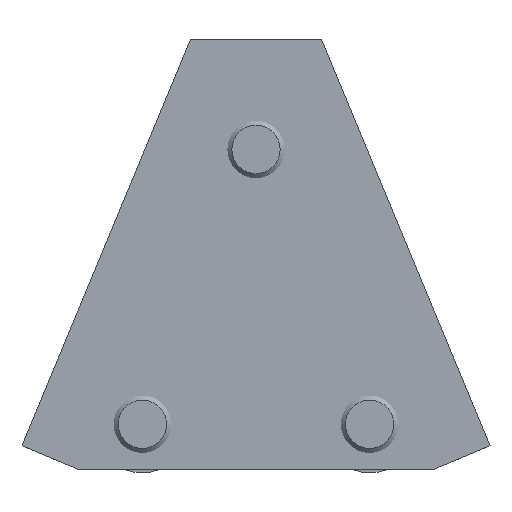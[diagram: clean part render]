
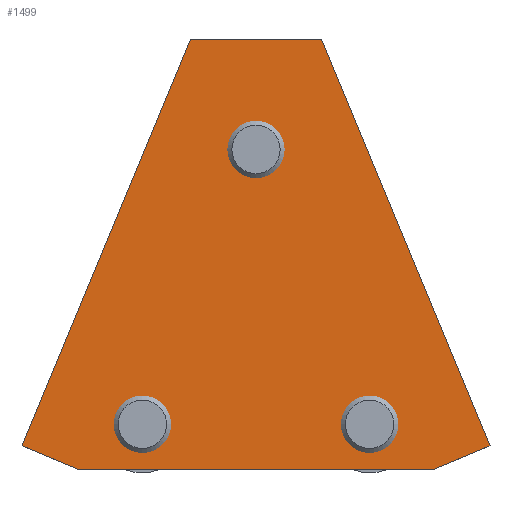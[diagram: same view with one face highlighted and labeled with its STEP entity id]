
A CAD part, left-side view. The second image highlights one B-rep face of the part: STEP entity #1499.
In plain terms, the highlighted planar face has unit normal (-1, 0, 0).
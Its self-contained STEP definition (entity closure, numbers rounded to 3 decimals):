
#65=FACE_BOUND('',#272,.T.);
#66=FACE_BOUND('',#273,.T.);
#67=FACE_BOUND('',#274,.T.);
#108=PLANE('',#1717);
#181=FACE_OUTER_BOUND('',#271,.T.);
#271=EDGE_LOOP('',(#1316,#1317,#1318,#1319,#1320,#1321));
#272=EDGE_LOOP('',(#1322));
#273=EDGE_LOOP('',(#1323));
#274=EDGE_LOOP('',(#1324));
#387=LINE('',#2515,#521);
#393=LINE('',#2526,#527);
#404=LINE('',#2548,#538);
#406=LINE('',#2552,#540);
#408=LINE('',#2557,#542);
#410=LINE('',#2560,#544);
#521=VECTOR('',#2071,10.);
#527=VECTOR('',#2079,10.);
#538=VECTOR('',#2100,10.);
#540=VECTOR('',#2104,10.);
#542=VECTOR('',#2110,10.);
#544=VECTOR('',#2114,10.);
#590=CIRCLE('',#1663,3.324);
#593=CIRCLE('',#1667,3.324);
#596=CIRCLE('',#1671,3.324);
#691=VERTEX_POINT('',#2392);
#694=VERTEX_POINT('',#2400);
#697=VERTEX_POINT('',#2408);
#732=VERTEX_POINT('',#2512);
#733=VERTEX_POINT('',#2514);
#737=VERTEX_POINT('',#2524);
#743=VERTEX_POINT('',#2546);
#744=VERTEX_POINT('',#2550);
#745=VERTEX_POINT('',#2556);
#864=EDGE_CURVE('',#691,#691,#590,.T.);
#868=EDGE_CURVE('',#694,#694,#593,.T.);
#872=EDGE_CURVE('',#697,#697,#596,.T.);
#923=EDGE_CURVE('',#732,#733,#387,.T.);
#929=EDGE_CURVE('',#732,#737,#393,.T.);
#940=EDGE_CURVE('',#743,#737,#404,.T.);
#942=EDGE_CURVE('',#743,#744,#406,.T.);
#944=EDGE_CURVE('',#745,#733,#408,.T.);
#946=EDGE_CURVE('',#745,#744,#410,.T.);
#1316=ORIENTED_EDGE('',*,*,#942,.T.);
#1317=ORIENTED_EDGE('',*,*,#946,.F.);
#1318=ORIENTED_EDGE('',*,*,#944,.T.);
#1319=ORIENTED_EDGE('',*,*,#923,.F.);
#1320=ORIENTED_EDGE('',*,*,#929,.T.);
#1321=ORIENTED_EDGE('',*,*,#940,.F.);
#1322=ORIENTED_EDGE('',*,*,#864,.T.);
#1323=ORIENTED_EDGE('',*,*,#868,.T.);
#1324=ORIENTED_EDGE('',*,*,#872,.T.);
#1499=ADVANCED_FACE('',(#181,#65,#66,#67),#108,.F.);
#1663=AXIS2_PLACEMENT_3D('',#2394,#1947,#1948);
#1667=AXIS2_PLACEMENT_3D('',#2402,#1956,#1957);
#1671=AXIS2_PLACEMENT_3D('',#2410,#1965,#1966);
#1717=AXIS2_PLACEMENT_3D('',#2559,#2112,#2113);
#1947=DIRECTION('center_axis',(1.,0.,0.));
#1948=DIRECTION('ref_axis',(0.,0.,-1.));
#1956=DIRECTION('center_axis',(1.,0.,0.));
#1957=DIRECTION('ref_axis',(0.,0.,-1.));
#1965=DIRECTION('center_axis',(1.,0.,0.));
#1966=DIRECTION('ref_axis',(0.,0.,-1.));
#2071=DIRECTION('',(0.,-0.383,-0.924));
#2079=DIRECTION('',(0.,1.,0.));
#2100=DIRECTION('',(0.,-0.383,0.924));
#2104=DIRECTION('',(0.,-0.924,-0.383));
#2110=DIRECTION('',(0.,-0.924,0.383));
#2112=DIRECTION('center_axis',(1.,0.,0.));
#2113=DIRECTION('ref_axis',(0.,0.,-1.));
#2114=DIRECTION('',(0.,1.,0.));
#2392=CARTESIAN_POINT('',(0.,15.2,9.324));
#2394=CARTESIAN_POINT('Origin',(0.,15.2,6.));
#2400=CARTESIAN_POINT('',(0.,0.,46.074));
#2402=CARTESIAN_POINT('Origin',(0.,0.,42.75));
#2408=CARTESIAN_POINT('',(0.,-15.2,9.324));
#2410=CARTESIAN_POINT('Origin',(0.,-15.2,6.));
#2512=CARTESIAN_POINT('',(0.,-8.767,57.5));
#2514=CARTESIAN_POINT('',(0.,-31.301,3.1));
#2515=CARTESIAN_POINT('',(0.,0.,78.666));
#2524=CARTESIAN_POINT('',(0.,8.767,57.5));
#2526=CARTESIAN_POINT('',(0.,0.,57.5));
#2546=CARTESIAN_POINT('',(0.,31.301,3.1));
#2548=CARTESIAN_POINT('',(0.,32.585,0.));
#2550=CARTESIAN_POINT('',(0.,23.817,0.));
#2552=CARTESIAN_POINT('',(0.,8.517,-6.338));
#2556=CARTESIAN_POINT('',(0.,-23.817,0.));
#2557=CARTESIAN_POINT('',(0.,-8.517,-6.338));
#2559=CARTESIAN_POINT('Origin',(0.,0.,28.447));
#2560=CARTESIAN_POINT('',(0.,-32.585,0.));
